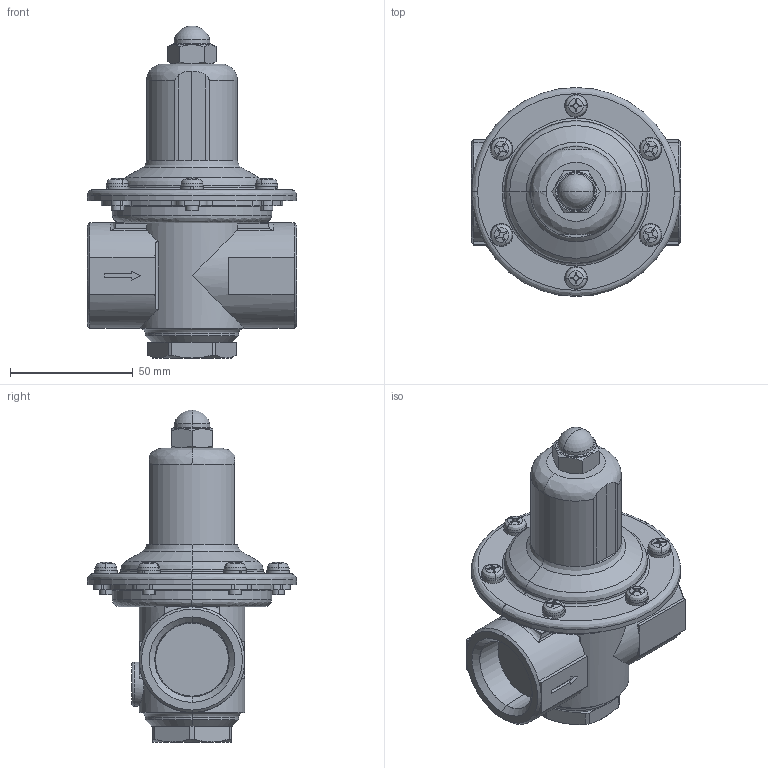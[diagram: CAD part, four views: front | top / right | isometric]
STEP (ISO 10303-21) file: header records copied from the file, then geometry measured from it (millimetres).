
FILE_DESCRIPTION( (''), '2;1');
FILE_NAME ('PC1027.208.GD-41 25A_26199.stp','2025-11-26T10:01:21',(''),(''),'spGate 20.6.3 (****-****-****-****)','','');
FILE_SCHEMA (('AUTOMOTIVE_DESIGN'));
Length unit declared in the file: millimetre
Products named in the file (7): Assembly; ばねかばー; 袋ナット; 下部キャップ; なべこねじ(Ｍ5-10); スプリング座金; GD-41 弁箱 25A
Assembly tree (16 placements, depth 2):
  Assembly
    ばねかばー
    袋ナット
    下部キャップ
    なべこねじ(Ｍ5-10)  x6
    スプリング座金  x6
    GD-41 弁箱 25A
Bounding box: 85 x 85 x 135 mm (x, y, z)
Volume: 160843.8 mm3; surface area: 62766.3 mm2
Topology: 16 solids, 16 shells, 546 faces, 1359 edges, 860 vertices
Faces by surface type: plane 240, cylinder 168, bspline 122, sphere 16
Entity records: 20936 total; most frequent: CARTESIAN_POINT 4523, ORIENTED_EDGE 1910, DIRECTION 1718, COLOUR_RGB 1342, PRESENTATION_STYLE_ASSIGNMENT 1342, STYLED_ITEM 1342, EDGE_CURVE 955, DRAUGHTING_PRE_DEFINED_CURVE_FONT 955
